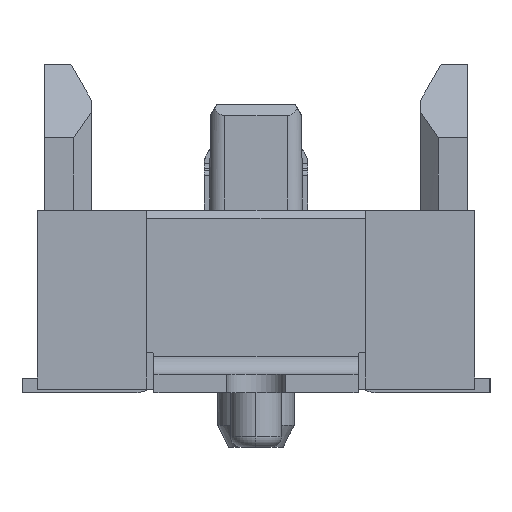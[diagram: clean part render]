
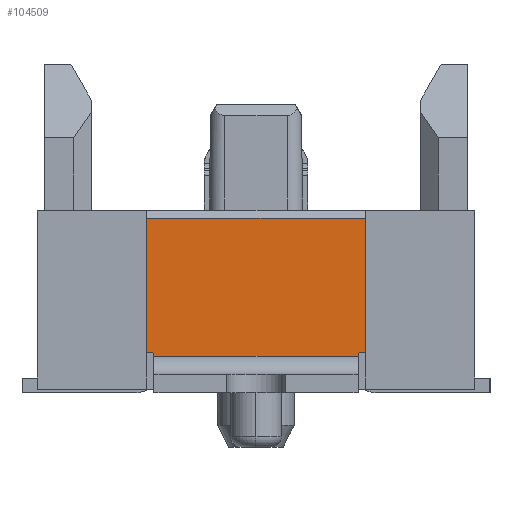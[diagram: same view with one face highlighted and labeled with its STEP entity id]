
A CAD part, left-side view. The second image highlights one B-rep face of the part: STEP entity #104509.
In plain terms, the highlighted planar face has unit normal (-1, 0, 0).
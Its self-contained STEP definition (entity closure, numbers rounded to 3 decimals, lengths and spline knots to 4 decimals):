
#1662 = CARTESIAN_POINT ( 'NONE',  ( -35.14, 1.5, 0.025 ) ) ;
#4035 = PLANE ( 'NONE',  #92958 ) ;
#4257 = VERTEX_POINT ( 'NONE', #89934 ) ;
#4684 = FACE_OUTER_BOUND ( 'NONE', #74473, .T. ) ;
#6795 = DIRECTION ( 'NONE',  ( 0., 0.995, 0.1 ) ) ;
#6837 = ORIENTED_EDGE ( 'NONE', *, *, #62575, .F. ) ;
#7115 = DIRECTION ( 'NONE',  ( -1., 0., 0. ) ) ;
#9726 = VERTEX_POINT ( 'NONE', #87294 ) ;
#11432 = CARTESIAN_POINT ( 'NONE',  ( -35.14, -1.4, -1.775 ) ) ;
#13079 = CARTESIAN_POINT ( 'NONE',  ( -35.14, -1.4134, -1.725 ) ) ;
#15388 = CARTESIAN_POINT ( 'NONE',  ( -35.14, 1.5, 0.025 ) ) ;
#15831 = VERTEX_POINT ( 'NONE', #11432 ) ;
#16425 = AXIS2_PLACEMENT_3D ( 'NONE', #79988, #98633, #6795 ) ;
#17083 = DIRECTION ( 'NONE',  ( 0., -1., 0. ) ) ;
#17947 = CARTESIAN_POINT ( 'NONE',  ( -35.14, 1.9863, 0.025 ) ) ;
#18646 = B_SPLINE_CURVE_WITH_KNOTS ( 'NONE', 3,
 ( #78546, #27964, #17947, #99173 ),
 .UNSPECIFIED., .F., .F.,
 ( 4, 4 ),
 ( 0., 1. ),
 .UNSPECIFIED. ) ;
#20699 = DIRECTION ( 'NONE',  ( 0., 1., 0. ) ) ;
#20967 = ORIENTED_EDGE ( 'NONE', *, *, #127464, .F. ) ;
#22179 = VERTEX_POINT ( 'NONE', #119535 ) ;
#25801 = VERTEX_POINT ( 'NONE', #15388 ) ;
#25944 = ORIENTED_EDGE ( 'NONE', *, *, #86392, .T. ) ;
#27832 = CARTESIAN_POINT ( 'NONE',  ( -35.14, -2.13, 0.015 ) ) ;
#27901 = CARTESIAN_POINT ( 'NONE',  ( -35.14, 1.4, -1.775 ) ) ;
#27964 = CARTESIAN_POINT ( 'NONE',  ( -35.14, 1.7432, 0.025 ) ) ;
#29454 = EDGE_CURVE ( 'NONE', #25801, #4257, #64211, .T. ) ;
#29545 = DIRECTION ( 'NONE',  ( 0., -1., 0. ) ) ;
#32928 = EDGE_CURVE ( 'NONE', #127142, #129299, #94244, .T. ) ;
#33782 = EDGE_CURVE ( 'NONE', #9726, #22179, #54257, .T. ) ;
#37221 = DIRECTION ( 'NONE',  ( 0., -1., 0. ) ) ;
#38888 = CARTESIAN_POINT ( 'NONE',  ( -35.14, 2.13, 0.115 ) ) ;
#39103 = LINE ( 'NONE', #79695, #112528 ) ;
#39407 = CARTESIAN_POINT ( 'NONE',  ( -35.14, -1.5, -1.725 ) ) ;
#39983 = ORIENTED_EDGE ( 'NONE', *, *, #128056, .F. ) ;
#43981 = DIRECTION ( 'NONE',  ( 0., 0., 1. ) ) ;
#46978 = LINE ( 'NONE', #108202, #93614 ) ;
#48623 = CARTESIAN_POINT ( 'NONE',  ( -35.14, 1.4134, -1.725 ) ) ;
#51333 = CARTESIAN_POINT ( 'NONE',  ( -35.14, 1.4134, -1.725 ) ) ;
#51466 = VERTEX_POINT ( 'NONE', #119910 ) ;
#54257 = CIRCLE ( 'NONE', #71243, 0.1 ) ;
#55061 = EDGE_CURVE ( 'NONE', #91238, #51466, #82387, .T. ) ;
#55162 = DIRECTION ( 'NONE',  ( 0., 0.003, 1. ) ) ;
#55605 = CARTESIAN_POINT ( 'NONE',  ( -35.14, -1.5, -1.725 ) ) ;
#56754 = ORIENTED_EDGE ( 'NONE', *, *, #32928, .F. ) ;
#57429 = ORIENTED_EDGE ( 'NONE', *, *, #29454, .T. ) ;
#57539 = VERTEX_POINT ( 'NONE', #92357 ) ;
#58376 = VERTEX_POINT ( 'NONE', #65371 ) ;
#62575 = EDGE_CURVE ( 'NONE', #129299, #15831, #102676, .T. ) ;
#63264 = CARTESIAN_POINT ( 'NONE',  ( -35.14, 2.2295, 0.025 ) ) ;
#64211 = LINE ( 'NONE', #1662, #82288 ) ;
#65371 = CARTESIAN_POINT ( 'NONE',  ( -35.14, -1.5, 0.025 ) ) ;
#65512 = DIRECTION ( 'NONE',  ( 0., 0., -1. ) ) ;
#67157 = LINE ( 'NONE', #27901, #70081 ) ;
#68656 = AXIS2_PLACEMENT_3D ( 'NONE', #106715, #126707, #74800 ) ;
#69329 = LINE ( 'NONE', #51333, #81083 ) ;
#70081 = VECTOR ( 'NONE', #37221, 1000. ) ;
#71243 = AXIS2_PLACEMENT_3D ( 'NONE', #27832, #107699, #55162 ) ;
#73477 = AXIS2_PLACEMENT_3D ( 'NONE', #108288, #7115, #17083 ) ;
#74473 = EDGE_LOOP ( 'NONE', ( #39983, #100657, #124796, #102407, #20967, #57429, #106133, #82228, #25944, #6837, #56754, #107455 ) ) ;
#74800 = DIRECTION ( 'NONE',  ( 0., 0.866, 0.5 ) ) ;
#78546 = CARTESIAN_POINT ( 'NONE',  ( -35.14, 1.5, 0.025 ) ) ;
#79695 = CARTESIAN_POINT ( 'NONE',  ( -35.14, -2.2295, 0.025 ) ) ;
#79988 = CARTESIAN_POINT ( 'NONE',  ( -35.14, 2.13, 0.015 ) ) ;
#80131 = LINE ( 'NONE', #38888, #92968 ) ;
#81083 = VECTOR ( 'NONE', #20699, 1000. ) ;
#82228 = ORIENTED_EDGE ( 'NONE', *, *, #92937, .F. ) ;
#82288 = VECTOR ( 'NONE', #65512, 1000. ) ;
#82387 = CIRCLE ( 'NONE', #16425, 0.1 ) ;
#86392 = EDGE_CURVE ( 'NONE', #57539, #15831, #67157, .T. ) ;
#87294 = CARTESIAN_POINT ( 'NONE',  ( -35.14, -2.1298, 0.115 ) ) ;
#88227 = DIRECTION ( 'NONE',  ( 0., 0., -1. ) ) ;
#89934 = CARTESIAN_POINT ( 'NONE',  ( -35.14, 1.5, -1.725 ) ) ;
#91238 = VERTEX_POINT ( 'NONE', #63264 ) ;
#92357 = CARTESIAN_POINT ( 'NONE',  ( -35.14, 1.4, -1.775 ) ) ;
#92937 = EDGE_CURVE ( 'NONE', #57539, #102366, #103223, .T. ) ;
#92958 = AXIS2_PLACEMENT_3D ( 'NONE', #94562, #115196, #43981 ) ;
#92968 = VECTOR ( 'NONE', #29545, 1000. ) ;
#93614 = VECTOR ( 'NONE', #88227, 1000. ) ;
#94244 = LINE ( 'NONE', #55605, #126390 ) ;
#94562 = CARTESIAN_POINT ( 'NONE',  ( -35.14, 0., -1.275 ) ) ;
#94924 = DIRECTION ( 'NONE',  ( 0., 1., 0. ) ) ;
#98633 = DIRECTION ( 'NONE',  ( 1., 0., 0. ) ) ;
#99173 = CARTESIAN_POINT ( 'NONE',  ( -35.14, 2.2295, 0.025 ) ) ;
#100657 = ORIENTED_EDGE ( 'NONE', *, *, #33782, .F. ) ;
#102366 = VERTEX_POINT ( 'NONE', #48623 ) ;
#102407 = ORIENTED_EDGE ( 'NONE', *, *, #55061, .F. ) ;
#102676 = CIRCLE ( 'NONE', #68656, 0.1 ) ;
#103223 = CIRCLE ( 'NONE', #73477, 0.1 ) ;
#104509 = ADVANCED_FACE ( 'NONE', ( #4684 ), #4035, .T. ) ;
#106133 = ORIENTED_EDGE ( 'NONE', *, *, #108731, .F. ) ;
#106715 = CARTESIAN_POINT ( 'NONE',  ( -35.14, -1.5, -1.775 ) ) ;
#107455 = ORIENTED_EDGE ( 'NONE', *, *, #107778, .F. ) ;
#107699 = DIRECTION ( 'NONE',  ( 1., 0., 0. ) ) ;
#107778 = EDGE_CURVE ( 'NONE', #58376, #127142, #46978, .T. ) ;
#108202 = CARTESIAN_POINT ( 'NONE',  ( -35.14, -1.5, 0.025 ) ) ;
#108288 = CARTESIAN_POINT ( 'NONE',  ( -35.14, 1.5, -1.775 ) ) ;
#108731 = EDGE_CURVE ( 'NONE', #102366, #4257, #69329, .T. ) ;
#112528 = VECTOR ( 'NONE', #94924, 1000. ) ;
#115196 = DIRECTION ( 'NONE',  ( -1., 0., 0. ) ) ;
#119535 = CARTESIAN_POINT ( 'NONE',  ( -35.14, -2.2295, 0.025 ) ) ;
#119910 = CARTESIAN_POINT ( 'NONE',  ( -35.14, 2.13, 0.115 ) ) ;
#124234 = DIRECTION ( 'NONE',  ( 0., 1., 0. ) ) ;
#124796 = ORIENTED_EDGE ( 'NONE', *, *, #125831, .F. ) ;
#125831 = EDGE_CURVE ( 'NONE', #51466, #9726, #80131, .T. ) ;
#126390 = VECTOR ( 'NONE', #124234, 1000. ) ;
#126707 = DIRECTION ( 'NONE',  ( -1., 0., 0. ) ) ;
#127142 = VERTEX_POINT ( 'NONE', #39407 ) ;
#127464 = EDGE_CURVE ( 'NONE', #25801, #91238, #18646, .T. ) ;
#128056 = EDGE_CURVE ( 'NONE', #22179, #58376, #39103, .T. ) ;
#129299 = VERTEX_POINT ( 'NONE', #13079 ) ;
